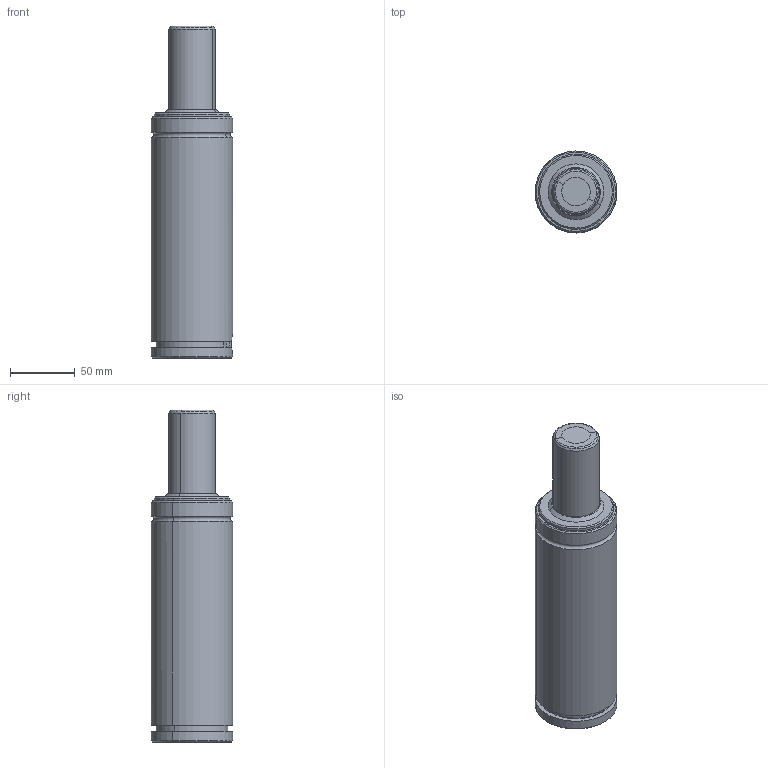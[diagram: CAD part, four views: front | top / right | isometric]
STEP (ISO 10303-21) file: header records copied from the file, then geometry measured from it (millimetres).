
FILE_DESCRIPTION(('CATIA V5 STEP Exchange'),'2;1');
FILE_NAME('W:\CATALOGO GENERAL 2018\FICHEROS CAD\006-TPF\TPFS 3000\TPFS 3000x65.stp','2017-11-21T15:13:27+00:00',('none'),('none'),'CATIA Version 5 Release 17 (IN-10)','CATIA V5 STEP AP203','none');
FILE_SCHEMA(('CONFIG_CONTROL_DESIGN'));
Length unit declared in the file: millimetre
Products named in the file (1): TPFS 3000x65
Assembly tree (3 placements, depth 2):
  TPFS 3000x65
    #56
    #547
    #1850
Bounding box: 62.99 x 62.98 x 256 mm (x, y, z)
Volume: 695341.7 mm3; surface area: 66201.5 mm2
Topology: 4 solids, 4 shells, 146 faces, 312 edges, 177 vertices
Faces by surface type: cone 56, torus 36, cylinder 31, plane 23
Entity records: 3591 total; most frequent: CARTESIAN_POINT 668, ORIENTED_EDGE 612, DIRECTION 484, EDGE_CURVE 306, AXIS2_PLACEMENT_3D 283, CIRCLE 184, VERTEX_POINT 177, EDGE_LOOP 157
